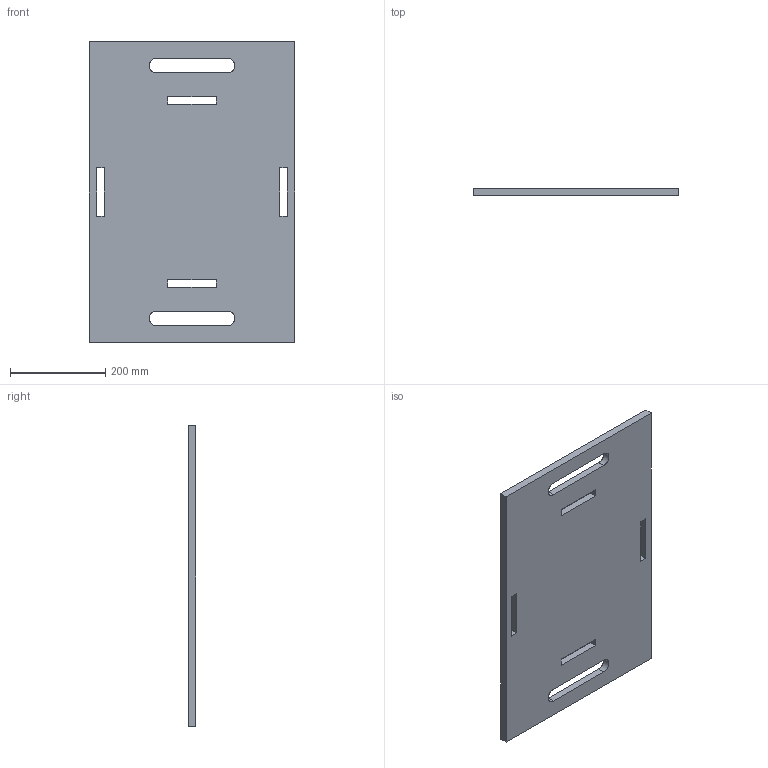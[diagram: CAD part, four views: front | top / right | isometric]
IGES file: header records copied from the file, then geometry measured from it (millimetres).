
Start section: SolidWorks IGES file using analytic representation for surfaces
Global section: file name: C:\Users\user\Documents\1_FabAcademy\week07\SolidW\iges\cajonbase.IGS; native system: SolidWorks 2016; preprocessor: SolidWorks 2016; author: user; date: 170308.170532; units: millimetre
Bounding box: 430 x 15 x 630 mm (x, y, z)
Surface area: 565712 mm2 (no closed solid volume)
Topology: 0 solids, 0 shells, 30 faces, 288 edges, 288 vertices
Faces by surface type: bspline 26, revolution 4
